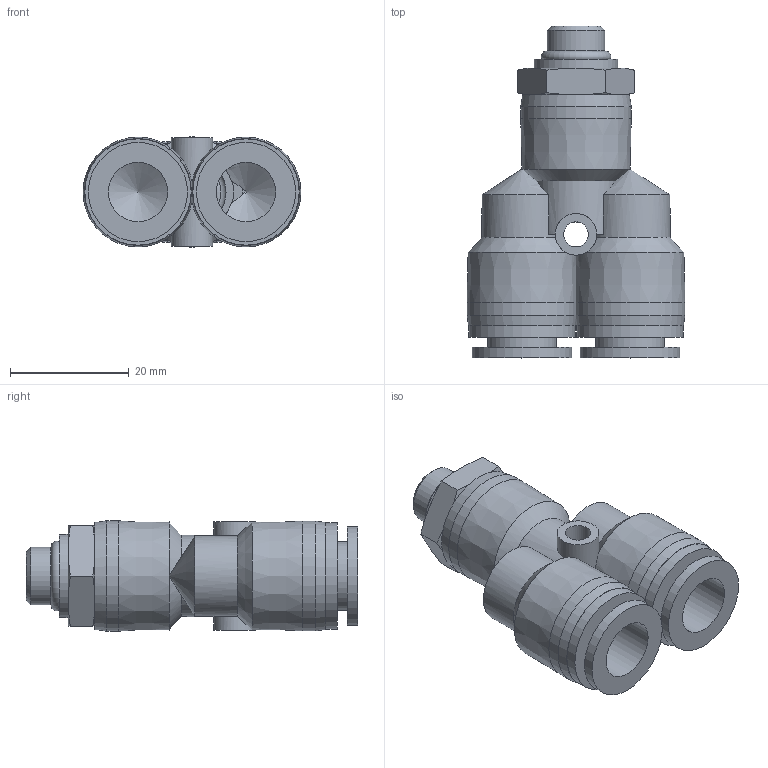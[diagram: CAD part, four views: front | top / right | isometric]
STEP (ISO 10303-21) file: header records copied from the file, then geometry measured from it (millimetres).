
FILE_DESCRIPTION(/* description */ (''),/* implementation_level */ '2;1');
FILE_NAME(/* name */ 'S:\_Tecnico\ArchivioUT\_Disegni3D ingombri\DISEGNI 3D per ingombri\RP\RP 74\RP741810.stp',/* time_stamp */ '2019-09-05T14:17:17+02:00',/* author */ ('ufficiotecnico3'),/* organization */ (''),/* preprocessor_version */ 'ST-DEVELOPER v18',/* originating_system */ 'Autodesk Inventor 2020',/* authorisation */ '');
FILE_SCHEMA (('AUTOMOTIVE_DESIGN { 1 0 10303 214 3 1 1 }'));
Length unit declared in the file: millimetre
Products named in the file (1): RP741810
Bounding box: 36.7 x 55.9 x 18.6 mm (x, y, z)
Volume: 13233.7 mm3; surface area: 8488.8 mm2
Topology: 1 solids, 1 shells, 77 faces, 201 edges, 132 vertices
Faces by surface type: cone 27, plane 25, cylinder 24, torus 1
Full cylindrical faces by diameter (mm): 4.2 x1, 5.9 x1, 7 x2, 7.6 x1, 8.3 x1, 9.728 x1, 10 x2, 11.5 x2, 14 x1, 16.7 x2, 17.9 x2, 18.6 x1
Entity records: 2770 total; most frequent: CARTESIAN_POINT 869, ORIENTED_EDGE 394, DIRECTION 393, EDGE_CURVE 197, AXIS2_PLACEMENT_3D 176, VERTEX_POINT 132, CIRCLE 98, EDGE_LOOP 93
